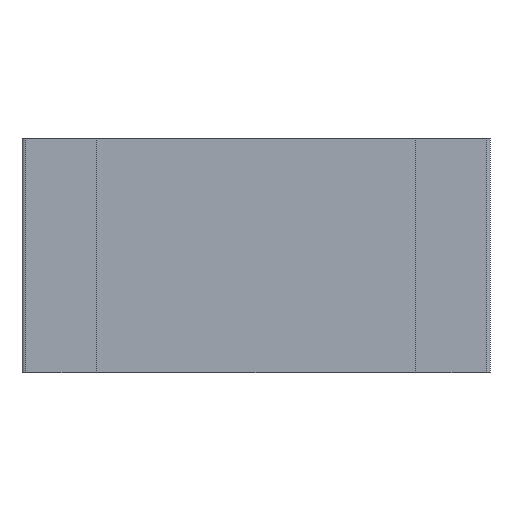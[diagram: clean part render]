
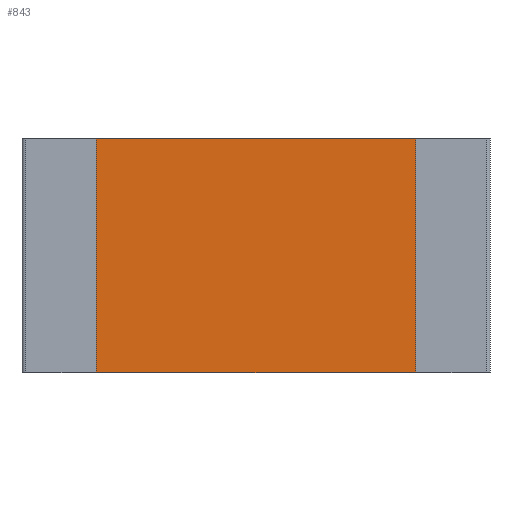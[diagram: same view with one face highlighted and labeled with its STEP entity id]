
A CAD part, front view. The second image highlights one B-rep face of the part: STEP entity #843.
In plain terms, the highlighted planar face has unit normal (0, -1, 0).
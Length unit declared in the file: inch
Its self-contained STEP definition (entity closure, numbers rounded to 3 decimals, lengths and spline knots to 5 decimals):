
#33=FACE_OUTER_BOUND('',#83,.T.);
#83=EDGE_LOOP('',(#566,#567,#568,#569));
#133=LINE('',#1198,#245);
#138=LINE('',#1208,#250);
#139=LINE('',#1211,#251);
#140=LINE('',#1212,#252);
#245=VECTOR('',#966,0.124);
#250=VECTOR('',#975,0.063);
#251=VECTOR('',#978,0.124);
#252=VECTOR('',#979,0.063);
#354=VERTEX_POINT('',#1191);
#357=VERTEX_POINT('',#1196);
#360=VERTEX_POINT('',#1206);
#361=VERTEX_POINT('',#1210);
#437=EDGE_CURVE('',#357,#354,#133,.T.);
#442=EDGE_CURVE('',#357,#360,#138,.T.);
#443=EDGE_CURVE('',#361,#360,#139,.T.);
#444=EDGE_CURVE('',#354,#361,#140,.T.);
#566=ORIENTED_EDGE('',*,*,#442,.T.);
#567=ORIENTED_EDGE('',*,*,#443,.F.);
#568=ORIENTED_EDGE('',*,*,#444,.F.);
#569=ORIENTED_EDGE('',*,*,#437,.F.);
#797=PLANE('',#904);
#843=ADVANCED_FACE('',(#33),#797,.T.);
#904=AXIS2_PLACEMENT_3D('',#1209,#976,#977);
#966=DIRECTION('',(-1.,0.,0.));
#975=DIRECTION('',(0.,0.,1.));
#976=DIRECTION('center_axis',(0.,-1.,0.));
#977=DIRECTION('ref_axis',(1.,0.,0.));
#978=DIRECTION('',(1.,0.,0.));
#979=DIRECTION('',(0.,0.,1.));
#1191=CARTESIAN_POINT('',(-0.062,0.001,-0.0315));
#1196=CARTESIAN_POINT('',(0.062,0.001,-0.0315));
#1198=CARTESIAN_POINT('',(-0.062,0.001,-0.0315));
#1206=CARTESIAN_POINT('',(0.062,0.001,0.0315));
#1208=CARTESIAN_POINT('',(0.062,0.001,0.));
#1209=CARTESIAN_POINT('Origin',(-0.062,0.001,0.));
#1210=CARTESIAN_POINT('',(-0.062,0.001,0.0315));
#1211=CARTESIAN_POINT('',(-0.062,0.001,0.0315));
#1212=CARTESIAN_POINT('',(-0.062,0.001,0.));
